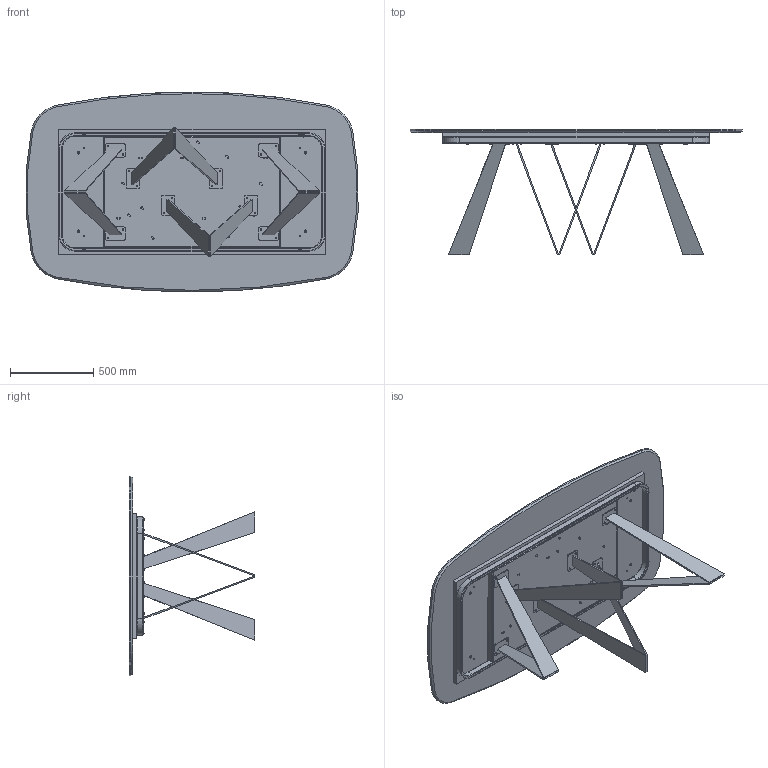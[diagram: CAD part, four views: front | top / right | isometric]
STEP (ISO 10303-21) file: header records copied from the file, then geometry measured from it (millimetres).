
FILE_DESCRIPTION (( 'STEP AP203' ), '1' );
FILE_NAME ('NO41M_Noa_200x120x75h_Marble Shaped.STEP', '2024-08-07T14:26:14', ( '' ), ( '' ), 'SwSTEP 2.0', 'SolidWorks 2022', '' );
FILE_SCHEMA (( 'CONFIG_CONTROL_DESIGN' ));
Length unit declared in the file: millimetre
Products named in the file (17): M4XMXX-00-Piani Sagomati in marmo_2000x1200; M8xXXmm_M8x55mm; TTAV06-01-TELAIO X TAVOLI PLAI ONDA NOA 240cm_TTAV06; Assieme NOA var 3_noa 200-240; TTAV06_01-01-STRUTTURA X TAVOLI PLAI ONDA NOA 240_Default<A macchina>; M8xXXmm_M8x16mm; TTAV06_02-01-VASSOIO TAVOLI PLAI ONDA NOA 240; MAPPA; rondella M8_8X16; M4X-00-Piani Sagomati in marmo_2000 x 1200; NO41M_Noa_200x120x75h_Marble Shaped; NOA000001GMB-00-Piastra Principale gamba NOA_Piatto SX; NOA000000-00-NOA BASE GREZZA; 434070-00-PIEDINO TPV GOMMA NERO D. 30x8max18; NOA000001GMB-00-Piastra Principale gamba NOA_Piatto DX; TRUXXXXXX-00-NOBILITATO GR CON SUPP TRUCIOLARE SP. 25_TRU00004_1600x720; NOA000001PTRS-00-Piastra rettangoalre con fori
Assembly tree (57 placements, depth 4):
  MAPPA
  NO41M_Noa_200x120x75h_Marble Shaped
    M4XMXX-00-Piani Sagomati in marmo_2000x1200
      M4X-00-Piani Sagomati in marmo_2000 x 1200
      TRUXXXXXX-00-NOBILITATO GR CON SUPP TRUCIOLARE SP. 25_TRU00004_1600x720
    Assieme NOA var 3_noa 200-240
      NOA000000-00-NOA BASE GREZZA  x4
        NOA000001GMB-00-Piastra Principale gamba NOA_Piatto SX
        NOA000001GMB-00-Piastra Principale gamba NOA_Piatto DX
        NOA000001PTRS-00-Piastra rettangoalre con fori
      TTAV06-01-TELAIO X TAVOLI PLAI ONDA NOA 240cm_TTAV06
        TTAV06_02-01-VASSOIO TAVOLI PLAI ONDA NOA 240
        TTAV06_01-01-STRUTTURA X TAVOLI PLAI ONDA NOA 240_Default<A macchina>
    M8xXXmm_M8x55mm  x4
    rondella M8_8X16  x20
    M8xXXmm_M8x16mm  x16
    434070-00-PIEDINO TPV GOMMA NERO D. 30x8max18  x2
Bounding box: 1992.14 x 752.8 x 1200 mm (x, y, z)
Volume: 82598359.3 mm3; surface area: 11018780.8 mm2
Topology: 71 solids, 71 shells, 1708 faces, 3916 edges, 2315 vertices
Faces by surface type: plane 638, cylinder 443, cone 347, torus 280
Entity records: 24008 total; most frequent: DIRECTION 3936, CARTESIAN_POINT 3673, ORIENTED_EDGE 3420, EDGE_CURVE 1710, AXIS2_PLACEMENT_3D 1498, VERTEX_POINT 1063, LINE 940, VECTOR 940
